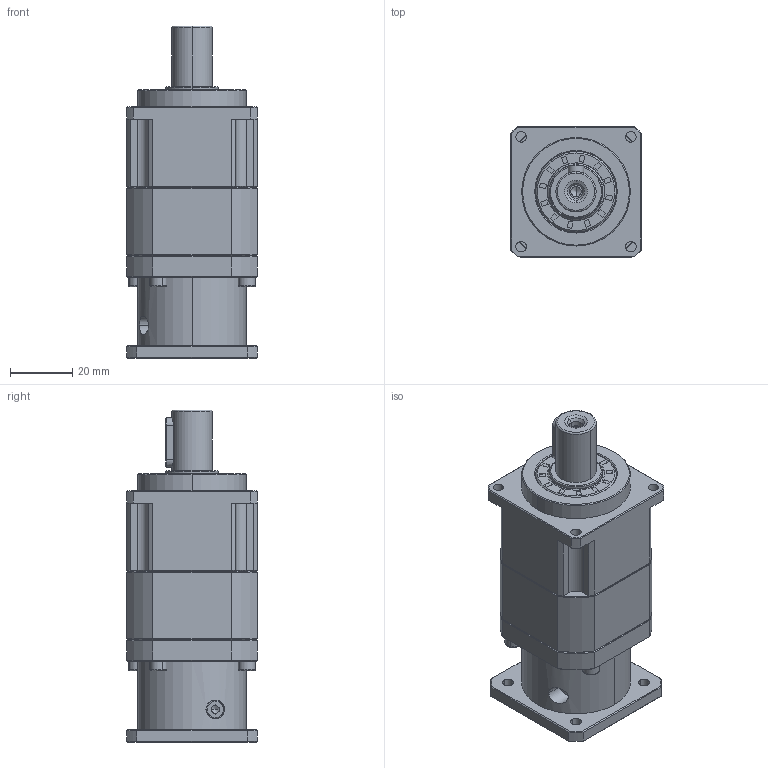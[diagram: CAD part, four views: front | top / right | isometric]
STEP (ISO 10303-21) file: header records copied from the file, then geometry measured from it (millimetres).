
FILE_DESCRIPTION (( 'STEP AP214' ), '1' );
FILE_NAME ('ZPB042-D13-L2-P1-5-22-31X31-朴3.5.step', '2024-04-10T05:31:08', ( 'Windows 蚚誧' ), ( 'Organization' ), 'SwSTEP 2.0', 'SolidWorks 2016', '' );
FILE_SCHEMA (( 'AUTOMOTIVE_DESIGN' ));
Length unit declared in the file: millimetre
Products named in the file (1): ZPB042-D13-L2-P1-5-22-31X31-朴3.5
Bounding box: 42 x 42 x 107 mm (x, y, z)
Volume: 107283.8 mm3; surface area: 40500.3 mm2
Topology: 10 solids, 19 shells, 1546 faces, 4122 edges, 2651 vertices
Faces by surface type: plane 666, bspline 443, cylinder 218, cone 213, torus 6
Entity records: 81183 total; most frequent: CARTESIAN_POINT 28331, ORIENTED_EDGE 8188, DIRECTION 6142, EDGE_CURVE 4094, VERTEX_POINT 2651, LINE 2194, VECTOR 2194, AXIS2_PLACEMENT_3D 1974
